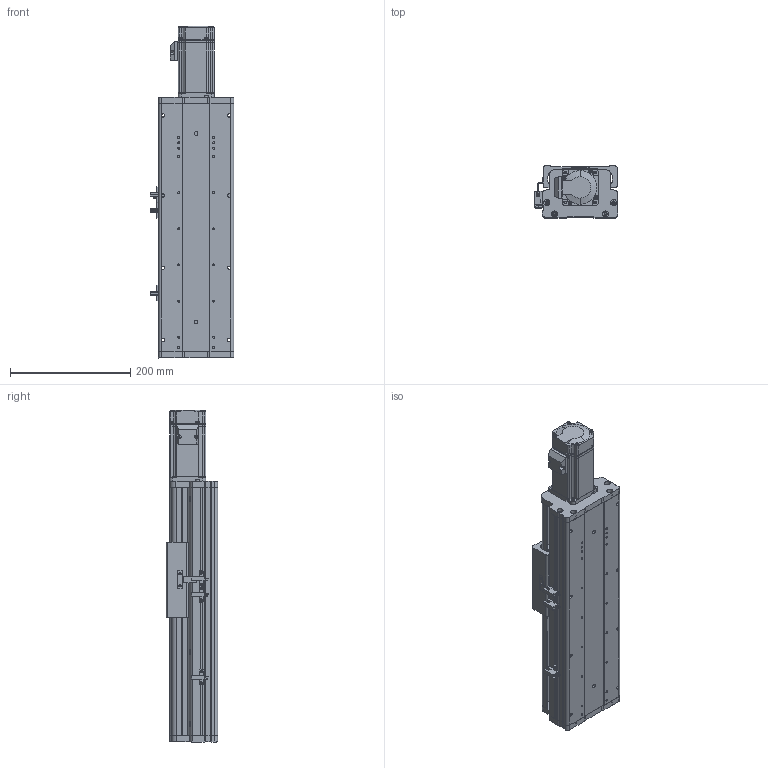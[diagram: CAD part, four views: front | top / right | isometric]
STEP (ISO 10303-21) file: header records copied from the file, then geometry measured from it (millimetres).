
FILE_DESCRIPTION (( 'STEP AP214' ), '1' );
FILE_NAME ('KSD125S-S150-MN-CM.STEP', '2017-08-07T06:06:02', ( '微软用户' ), ( '微软中国' ), 'SwSTEP 2.0', 'SolidWorks 2014', '' );
FILE_SCHEMA (( 'AUTOMOTIVE_DESIGN' ));
Length unit declared in the file: millimetre
Products named in the file (12): 125宽模组 - 直连不带电机座电机安装板; MHMD042G1CA_2_03; 拸萇儂釱滅袉菜; 覜茼え68遵圉猾敕; U倰嫖萇假蚾璃; U倰嫖萇EEㄜSX672; KSD125-賑雄釱1; CS-34X32-10X14; 125-帣傷啣1; KSD125S-S150-MN-CM; KSD125S-150行程丝杆防尘盖-直连不带电机座; KSD125S-150行程丝杆底板-直连不带电机座
Assembly tree (15 placements, depth 2):
  KSD125S-S150-MN-CM
    125-帣傷啣1
    CS-34X32-10X14
    KSD125-賑雄釱1
    U倰嫖萇EEㄜSX672  x3
    U倰嫖萇假蚾璃  x3
    覜茼え68遵圉猾敕
    拸萇儂釱滅袉菜
    MHMD042G1CA_2_03
    125宽模组 - 直连不带电机座电机安装板
    KSD125S-150行程丝杆底板-直连不带电机座
    KSD125S-150行程丝杆防尘盖-直连不带电机座
Bounding box: 138.7 x 86 x 551.5 mm (x, y, z)
Volume: 1719552.7 mm3; surface area: 582231.5 mm2
Topology: 14 solids, 17 shells, 1396 faces, 4035 edges, 2653 vertices
Faces by surface type: cylinder 672, plane 611, cone 91, bspline 22
Entity records: 48792 total; most frequent: CARTESIAN_POINT 10494, DIRECTION 6883, ORIENTED_EDGE 6578, EDGE_CURVE 3367, AXIS2_PLACEMENT_3D 2504, VERTEX_POINT 2245, VECTOR 1875, LINE 1875
